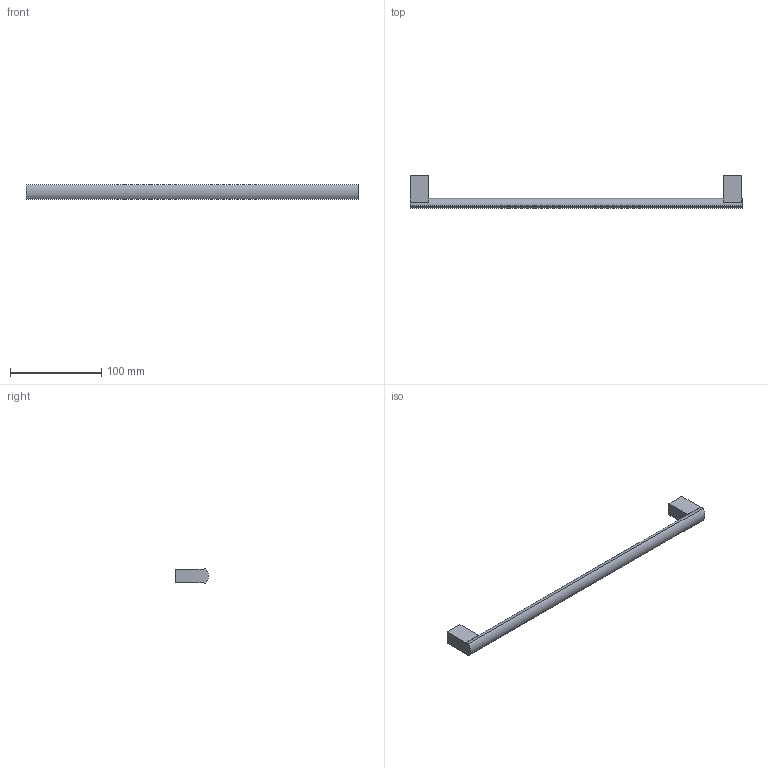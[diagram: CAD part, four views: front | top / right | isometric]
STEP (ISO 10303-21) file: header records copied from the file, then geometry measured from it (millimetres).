
FILE_DESCRIPTION( ( 'STEP AP214' ), '1' );
FILE_NAME( 'D:/Shahbaz D&D/Task/Check and correct handles with 3 drill sockets/Clivia/115209.stp', '2023-02-20T10:48:55', ( '' ), ( '' ), ' ', 'PARTsolutions', ' ' );
FILE_SCHEMA( ( 'AUTOMOTIVE_DESIGN { 1 0 10303 214 1 1 1 1 }' ) );
Length unit declared in the file: millimetre
Products named in the file (1): _115209
Bounding box: 364 x 35.96 x 16 mm (x, y, z)
Volume: 64189.4 mm3; surface area: 19850 mm2
Topology: 1 solids, 1 shells, 21 faces, 48 edges, 32 vertices
Faces by surface type: plane 17, cylinder 4
Full cylindrical faces by diameter (mm): 4 x2
Entity records: 768 total; most frequent: DIRECTION 102, CARTESIAN_POINT 100, ORIENTED_EDGE 92, EDGE_CURVE 46, AXIS2_PLACEMENT_3D 34, LINE 34, VECTOR 34, VERTEX_POINT 32
